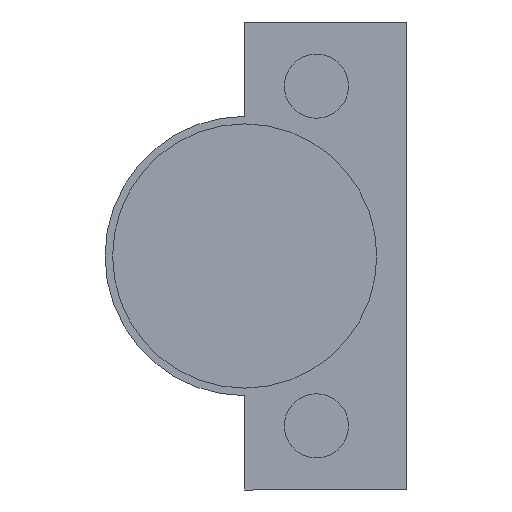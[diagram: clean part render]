
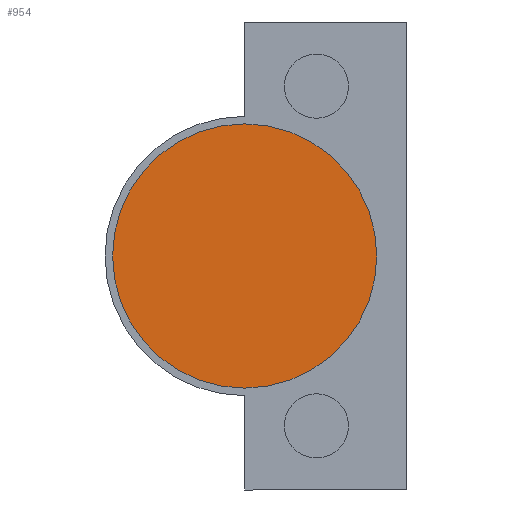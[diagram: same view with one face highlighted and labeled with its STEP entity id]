
A CAD part, front view. The second image highlights one B-rep face of the part: STEP entity #954.
In plain terms, the highlighted planar face has unit normal (0, -1, 0).
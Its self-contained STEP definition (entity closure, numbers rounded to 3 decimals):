
#36 = CARTESIAN_POINT ( 'NONE',  ( 20., -51.1, 0. ) ) ;
#120 = CARTESIAN_POINT ( 'NONE',  ( 2.5, -51.1, 0. ) ) ;
#126 = DIRECTION ( 'NONE',  ( 1., 0., 0. ) ) ;
#134 = DIRECTION ( 'NONE',  ( 0., -1., 0. ) ) ;
#230 = DIRECTION ( 'NONE',  ( 1., 0., 0. ) ) ;
#255 = DIRECTION ( 'NONE',  ( 0., -1., 0. ) ) ;
#325 = ORIENTED_EDGE ( 'NONE', *, *, #370, .T. ) ;
#331 = EDGE_CURVE ( 'NONE', #334, #1059, #1215, .T. ) ;
#334 = VERTEX_POINT ( 'NONE', #36 ) ;
#352 = ORIENTED_EDGE ( 'NONE', *, *, #331, .T. ) ;
#370 = EDGE_CURVE ( 'NONE', #1059, #334, #899, .T. ) ;
#382 = CARTESIAN_POINT ( 'NONE',  ( -15., -51.1, 0. ) ) ;
#385 = CARTESIAN_POINT ( 'NONE',  ( 2.5, -51.1, 0. ) ) ;
#758 = AXIS2_PLACEMENT_3D ( 'NONE', #120, #134, #126 ) ;
#775 = DIRECTION ( 'NONE',  ( 1., 0., 0. ) ) ;
#899 = CIRCLE ( 'NONE', #949, 17.5 ) ;
#930 = DIRECTION ( 'NONE',  ( 0., -1., 0. ) ) ;
#949 = AXIS2_PLACEMENT_3D ( 'NONE', #385, #255, #230 ) ;
#954 = ADVANCED_FACE ( 'NONE', ( #1336 ), #1062, .T. ) ;
#994 = EDGE_LOOP ( 'NONE', ( #325, #352 ) ) ;
#1036 = CARTESIAN_POINT ( 'NONE',  ( 2.5, -51.1, 0. ) ) ;
#1059 = VERTEX_POINT ( 'NONE', #382 ) ;
#1062 = PLANE ( 'NONE',  #1230 ) ;
#1215 = CIRCLE ( 'NONE', #758, 17.5 ) ;
#1230 = AXIS2_PLACEMENT_3D ( 'NONE', #1036, #930, #775 ) ;
#1336 = FACE_OUTER_BOUND ( 'NONE', #994, .T. ) ;
